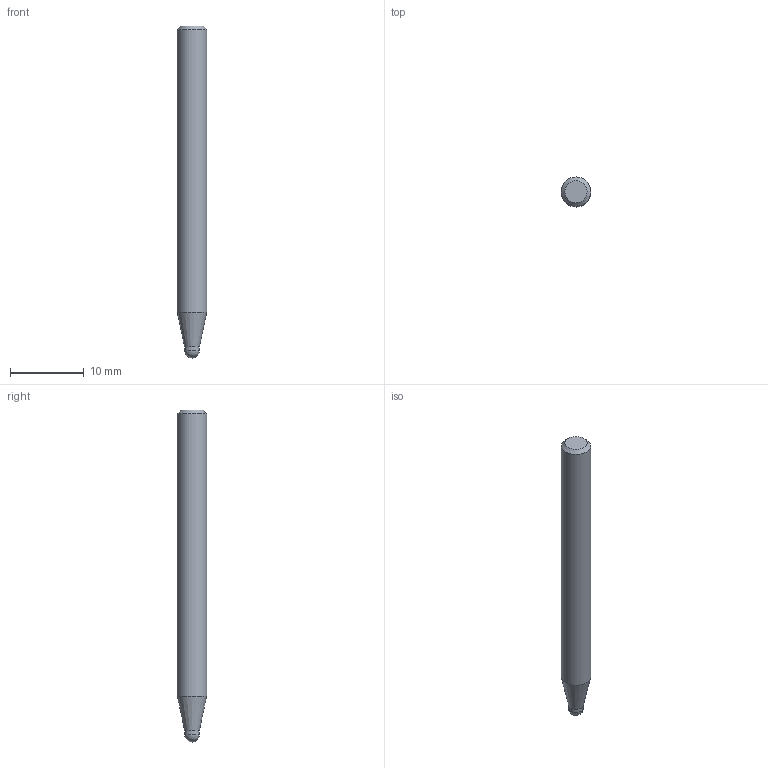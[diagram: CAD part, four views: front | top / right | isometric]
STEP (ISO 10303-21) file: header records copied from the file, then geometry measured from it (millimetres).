
FILE_DESCRIPTION((''),'2;1');
FILE_NAME('C:\Users\nsx150\AppData\Local\Temp\Mastercam 2021\CC00YWH0Y5\TEMP.step','2021-04-08T15:18:12',(''),(''),'STEP Write','Mastercam 2021 ... CNC Software, Inc.','');
FILE_SCHEMA(('AUTOMOTIVE_DESIGN'));
Length unit declared in the file: millimetre
Products named in the file (1): None
Bounding box: 4 x 4 x 45 mm (x, y, z)
Volume: 524.2 mm3; surface area: 557.1 mm2
Topology: 2 solids, 2 shells, 8 faces, 12 edges, 7 vertices
Faces by surface type: plane 3, cylinder 2, cone 2, sphere 1
Full cylindrical faces by diameter (mm): 2 x1, 4 x1
Entity records: 190 total; most frequent: DIRECTION 32, CARTESIAN_POINT 22, AXIS2_PLACEMENT_3D 16, ORIENTED_EDGE 12, EDGE_LOOP 12, STYLED_ITEM 11, ADVANCED_FACE 8, VERTEX_POINT 6
